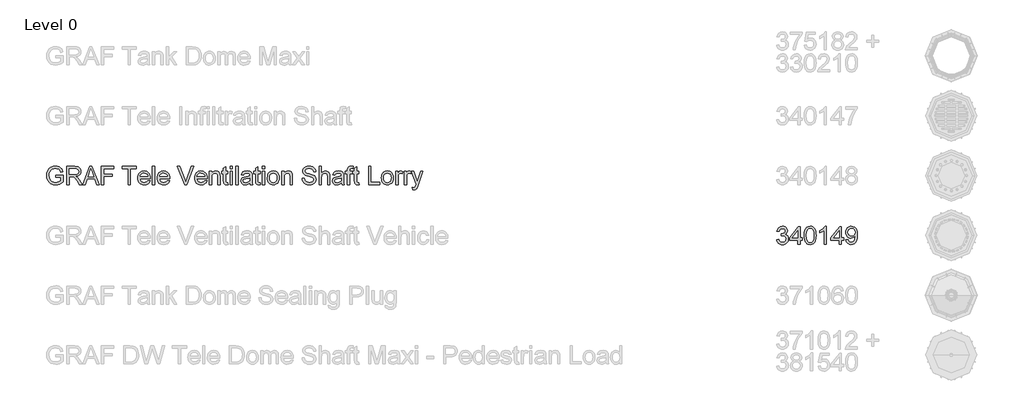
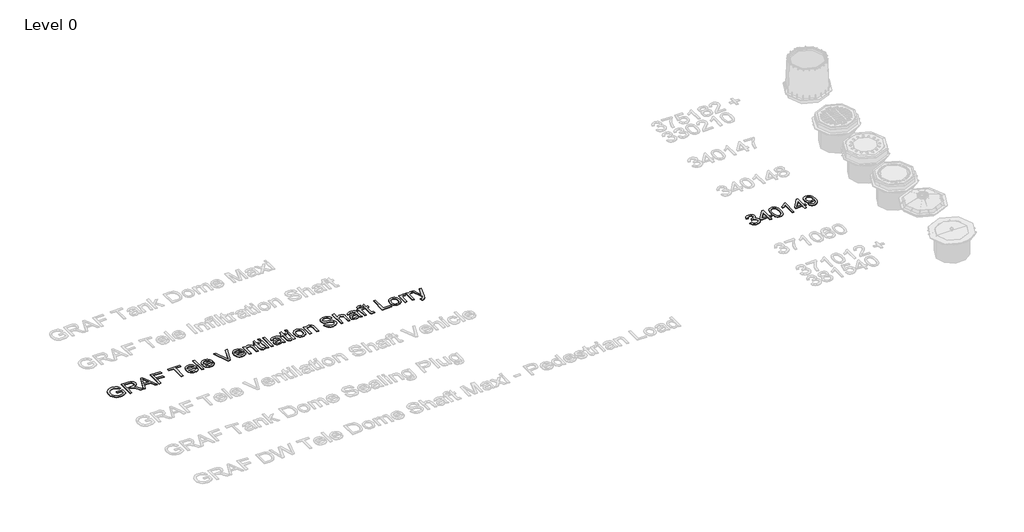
# One storey, part 6 of 25: 2 proxies.
"""IFC4 building model written with IfcOpenShell, lengths in millimetres."""

from ifc_helpers import new_model, si_unit, origin, origin_with_axes, place, context, project, spatial, polyline, outline, extrude, element, save

model = new_model("IFC4")

# Units and contexts
model_context = context("Model", 3, world=origin())
ifc_project = project(units=[si_unit("LENGTHUNIT", "METRE", prefix="MILLI")], contexts=[model_context])

# Site, building, storey
site = spatial("IfcSite", under=ifc_project)
building = spatial("IfcBuilding", under=site)
storey = spatial("IfcBuildingStorey", under=building, Name="Level 0", Elevation=0.0)

# Proxies
placement = place(None, origin())
element("IfcBuildingElementProxy", 1, Name="300mm Arial", ObjectType="300mm Arial", at=placement, inside=storey, context=model_context, shape_type="SweptSolid", body=[
    extrude(outline(polyline([(-15240.9940387, -7083.2545597), (-15240.9940387, -7045.5834434), (-15118.5629107, -7045.5834434), (-15118.5629107, -7158.2289103), (-15148.3153671, -7178.9222726), (-15179.0059225, -7193.7663111), (-15210.5610007, -7202.7058436), (-15242.9070251, -7205.6856877), (-15285.1674693, -7200.949207), (-15323.3628175, -7186.739765), (-15355.0926395, -7163.5540022), (-15377.9565055, -7131.8885595), (-15391.7796715, -7093.9047435), (-15396.3873935, -7051.7638609), (-15391.7980656, -7009.3194757), (-15378.0300819, -6969.8365406), (-15355.6536596, -6936.717964), (-15325.2390156, -6913.3666543), (-15288.1932987, -6899.5158972), (-15245.9236575, -6894.8989782), (-15214.8928112, -6897.5753197), (-15186.9889618, -6905.6043443), (-15163.4904994, -6918.4066377), (-15145.6758138, -6935.4027859), (-15132.4964413, -6957.4113262), (-15122.9039183, -6985.2507962), (-15157.6319786, -6995.0364573), (-15165.3850917, -6975.1800266), (-15174.8120678, -6960.1980323), (-15187.2832674, -6948.9040551), (-15204.169051, -6940.1116754), (-15224.3013932, -6934.4554897), (-15246.5122687, -6932.5700945), (-15272.5123287, -6934.6026425), (-15294.7415982, -6940.7002866), (-15313.1173039, -6950.0996716), (-15327.5566722, -6962.0374423), (-15346.9440533, -6991.0633317), (-15355.7732212, -7019.50061), (-15358.7162772, -7050.2187566), (-15355.175413, -7086.2436009), (-15344.5528204, -7115.8856927), (-15327.1703961, -7138.9334997), (-15303.3500369, -7155.1754898), (-15275.4737787, -7164.804801), (-15245.9236575, -7168.0145714), (-15219.831627, -7165.5957473), (-15194.3833899, -7158.3392749), (-15172.2828791, -7148.3420817), (-15156.234027, -7137.701095), (-15156.234027, -7083.2545597), (-15240.9940387, -7083.2545597)])), origin_with_axes(), (0.0, 0.0, 1.0), 10.0),
    extrude(outline(polyline([(-15057.3473467, -7200.9767982), (-15057.3473467, -6899.6078677), (-14927.4850024, -6899.6078677), (-14892.5821982, -6901.6404158), (-14867.1891434, -6907.7380598), (-14848.6294968, -6918.9952489), (-14834.2269167, -6936.5064318), (-14824.9838815, -6958.2206666), (-14821.9028698, -6982.087011), (-14827.0072325, -7011.7750881), (-14842.3203206, -7036.3863935), (-14853.9200997, -7046.4157764), (-14868.3019865, -7054.4310054), (-14905.4120827, -7064.4190016), (-14884.0013506, -7080.532233), (-14853.467145, -7119.3069952), (-14803.2144645, -7200.9767982), (-14846.9924219, -7200.9767982), (-14886.2086426, -7138.5104354), (-14914.5355562, -7097.1604991), (-14934.4379722, -7077.6259652), (-14952.3538253, -7070.4522663), (-14974.2060158, -7069.1278911), (-15019.6762304, -7069.1278911), (-15019.6762304, -7200.9767982), (-15057.3473467, -7200.9767982)]), holes=[polyline([(-15019.6762304, -7031.4567748), (-14935.3576771, -7031.4567748), (-14911.1418448, -7030.1232026), (-14892.3522719, -7026.1224859), (-14878.2072092, -7019.1879103), (-14867.9249074, -7009.0527613), (-14861.6617165, -6996.7930938), (-14859.5739861, -6983.4849626), (-14863.5563087, -6965.109257), (-14875.5032765, -6950.3020067), (-14896.058683, -6940.5347397), (-14925.8663217, -6937.278984), (-15019.6762304, -6937.278984), (-15019.6762304, -7031.4567748)])]), origin_with_axes(), (0.0, 0.0, 1.0), 10.0),
    extrude(outline(polyline([(-14791.0743586, -7200.9767982), (-14670.7769462, -6899.6078677), (-14638.6976362, -6899.6078677), (-14518.4002238, -7200.9767982), (-14558.2050557, -7200.9767982), (-14592.7123868, -7106.7990074), (-14716.835772, -7106.7990074), (-14751.2695268, -7200.9767982), (-14791.0743586, -7200.9767982)]), holes=[polyline([(-14703.003409, -7069.1278911), (-14606.4711735, -7069.1278911), (-14633.6208647, -6995.0364573), (-14654.7372912, -6937.278984), (-14673.499273, -6988.5617342), (-14703.003409, -7069.1278911)])]), origin_with_axes(), (0.0, 0.0, 1.0), 10.0),
    extrude(outline(polyline([(-14478.1539335, -7200.9767982), (-14478.1539335, -6899.6078677), (-14275.6716834, -6899.6078677), (-14275.6716834, -6937.278984), (-14440.4828172, -6937.278984), (-14440.4828172, -7026.7478853), (-14299.2161311, -7026.7478853), (-14299.2161311, -7064.4190016), (-14440.4828172, -7064.4190016), (-14440.4828172, -7200.9767982), (-14478.1539335, -7200.9767982)])), origin_with_axes(), (0.0, 0.0, 1.0), 10.0),
    extrude(outline(polyline([(-14030.8094274, -7200.9767982), (-14030.8094274, -6937.278984), (-14129.6961077, -6937.278984), (-14129.6961077, -6899.6078677), (-13894.2516308, -6899.6078677), (-13894.2516308, -6937.278984), (-13993.1383111, -6937.278984), (-13993.1383111, -7200.9767982), (-14030.8094274, -7200.9767982)])), origin_with_axes(), (0.0, 0.0, 1.0), 10.0),
    extrude(outline(polyline([(-13701.6286181, -7135.0523446), (-13664.6932658, -7139.7612342), (-13678.001397, -7167.5915071), (-13699.2373851, -7188.3952339), (-13727.9229837, -7201.3630743), (-13763.5799461, -7205.6856877), (-13786.9542484, -7203.8209859), (-13807.7809678, -7198.2268803), (-13826.0601045, -7188.9033709), (-13841.7916583, -7175.8504579), (-13854.4422004, -7159.4314246), (-13863.4783019, -7140.0095545), (-13868.8999628, -7117.5848477), (-13870.7071831, -7092.157304), (-13868.8815687, -7065.8675369), (-13863.4047255, -7042.6955698), (-13854.2766535, -7022.6414025), (-13841.4973527, -7005.7050351), (-13825.8071856, -6992.2497512), (-13807.9465147, -6982.638834), (-13787.9153401, -6976.8722838), (-13765.7136617, -6974.9501003), (-13744.2270539, -6976.8676852), (-13724.7959868, -6982.6204399), (-13707.4204603, -6992.2083644), (-13692.1004744, -7005.6314587), (-13679.5947859, -7022.5310379), (-13670.6621512, -7042.548417), (-13665.3025704, -7065.6835959), (-13663.5160434, -7091.9365748), (-13663.7367726, -7102.0901179), (-13833.0360668, -7102.0901179), (-13826.5153584, -7130.2882728), (-13811.3678173, -7151.0184232), (-13789.5064297, -7163.7655344), (-13762.8441821, -7168.0145714), (-13742.7946134, -7166.0464027), (-13725.9088298, -7160.1418967), (-13712.1868314, -7149.9331713), (-13701.6286181, -7135.0523446)]), holes=[polyline([(-13833.0360668, -7064.4190016), (-13701.1871597, -7064.4190016), (-13706.2823254, -7044.5165856), (-13716.2703215, -7030.2795524), (-13738.2328766, -7017.0358006), (-13765.8608145, -7012.6212166), (-13791.2538692, -7016.1436868), (-13812.2507341, -7026.7110971), (-13826.8464522, -7043.1830134), (-13833.0360668, -7064.4190016)])]), origin_with_axes(), (0.0, 0.0, 1.0), 10.0),
    extrude(outline(polyline([(-13625.8449271, -7200.9767982), (-13625.8449271, -6899.6078677), (-13588.1738108, -6899.6078677), (-13588.1738108, -7200.9767982), (-13625.8449271, -7200.9767982)])), origin_with_axes(), (0.0, 0.0, 1.0), 10.0),
    extrude(outline(polyline([(-13376.71524, -7135.0523446), (-13339.7798877, -7139.7612342), (-13353.0880188, -7167.5915071), (-13374.324007, -7188.3952339), (-13403.0096056, -7201.3630743), (-13438.666568, -7205.6856877), (-13462.0408702, -7203.8209859), (-13482.8675897, -7198.2268803), (-13501.1467263, -7188.9033709), (-13516.8782801, -7175.8504579), (-13529.5288222, -7159.4314246), (-13538.5649238, -7140.0095545), (-13543.9865847, -7117.5848477), (-13545.793805, -7092.157304), (-13543.9681906, -7065.8675369), (-13538.4913474, -7042.6955698), (-13529.3632754, -7022.6414025), (-13516.5839745, -7005.7050351), (-13500.8938074, -6992.2497512), (-13483.0331366, -6982.638834), (-13463.0019619, -6976.8722838), (-13440.8002835, -6974.9501003), (-13419.3136758, -6976.8676852), (-13399.8826086, -6982.6204399), (-13382.5070821, -6992.2083644), (-13367.1870963, -7005.6314587), (-13354.6814077, -7022.5310379), (-13345.748773, -7042.548417), (-13340.3891922, -7065.6835959), (-13338.6026653, -7091.9365748), (-13338.8233945, -7102.0901179), (-13508.1226887, -7102.0901179), (-13501.6019803, -7130.2882728), (-13486.4544391, -7151.0184232), (-13464.5930516, -7163.7655344), (-13437.930804, -7168.0145714), (-13417.8812352, -7166.0464027), (-13400.9954517, -7160.1418967), (-13387.2734532, -7149.9331713), (-13376.71524, -7135.0523446)]), holes=[polyline([(-13508.1226887, -7064.4190016), (-13376.2737816, -7064.4190016), (-13381.3689472, -7044.5165856), (-13391.3569434, -7030.2795524), (-13413.3194985, -7017.0358006), (-13440.9474363, -7012.6212166), (-13466.3404911, -7016.1436868), (-13487.3373559, -7026.7110971), (-13501.9330741, -7043.1830134), (-13508.1226887, -7064.4190016)])]), origin_with_axes(), (0.0, 0.0, 1.0), 10.0),
    extrude(outline(polyline([(-13089.4729781, -7200.9767982), (-13209.4025086, -6899.6078677), (-13169.0826419, -6899.6078677), (-13088.8107906, -7116.7318213), (-13072.5504064, -7165.6601266), (-13056.5107514, -7116.7318213), (-12976.0181708, -6899.6078677), (-12935.6983042, -6899.6078677), (-13050.5510631, -7200.9767982), (-13089.4729781, -7200.9767982)])), origin_with_axes(), (0.0, 0.0, 1.0), 10.0),
    extrude(outline(polyline([(-12750.4329314, -7135.0523446), (-12713.4975791, -7139.7612342), (-12726.8057102, -7167.5915071), (-12748.0416984, -7188.3952339), (-12776.727297, -7201.3630743), (-12812.3842594, -7205.6856877), (-12835.7585616, -7203.8209859), (-12856.5852811, -7198.2268803), (-12874.8644177, -7188.9033709), (-12890.5959716, -7175.8504579), (-12903.2465137, -7159.4314246), (-12912.2826152, -7140.0095545), (-12917.7042761, -7117.5848477), (-12919.5114964, -7092.157304), (-12917.685882, -7065.8675369), (-12912.2090388, -7042.6955698), (-12903.0809668, -7022.6414025), (-12890.301666, -7005.7050351), (-12874.6114989, -6992.2497512), (-12856.750828, -6982.638834), (-12836.7196534, -6976.8722838), (-12814.5179749, -6974.9501003), (-12793.0313672, -6976.8676852), (-12773.6003, -6982.6204399), (-12756.2247736, -6992.2083644), (-12740.9047877, -7005.6314587), (-12728.3990991, -7022.5310379), (-12719.4664644, -7042.548417), (-12714.1068836, -7065.6835959), (-12712.3203567, -7091.9365748), (-12712.5410859, -7102.0901179), (-12881.8403801, -7102.0901179), (-12875.3196717, -7130.2882728), (-12860.1721306, -7151.0184232), (-12838.310743, -7163.7655344), (-12811.6484954, -7168.0145714), (-12791.5989266, -7166.0464027), (-12774.7131431, -7160.1418967), (-12760.9911447, -7149.9331713), (-12750.4329314, -7135.0523446)]), holes=[polyline([(-12881.8403801, -7064.4190016), (-12749.991473, -7064.4190016), (-12755.0866386, -7044.5165856), (-12765.0746348, -7030.2795524), (-12787.0371899, -7017.0358006), (-12814.6651277, -7012.6212166), (-12840.0581825, -7016.1436868), (-12861.0550473, -7026.7110971), (-12875.6507655, -7043.1830134), (-12881.8403801, -7064.4190016)])]), origin_with_axes(), (0.0, 0.0, 1.0), 10.0),
    extrude(outline(polyline([(-12674.6492404, -7200.9767982), (-12674.6492404, -6979.6589899), (-12636.9781241, -6979.6589899), (-12636.9781241, -7010.5610775), (-12623.8907221, -6994.981275), (-12608.1729639, -6983.8528446), (-12589.8248493, -6977.1757864), (-12568.8463786, -6974.9501003), (-12550.2775349, -6976.7435251), (-12533.2721896, -6982.1237992), (-12519.0903387, -6990.4195382), (-12508.991978, -7000.9593574), (-12497.6980007, -7028.6608716), (-12495.7114379, -7065.0811892), (-12495.7114379, -7200.9767982), (-12533.3825542, -7200.9767982), (-12533.3825542, -7070.1579607), (-12537.7235618, -7036.8278519), (-12543.7292353, -7026.9042351), (-12553.064241, -7019.2063044), (-12565.0296029, -7014.2674886), (-12578.9263452, -7012.6212166), (-12600.9900679, -7016.3184307), (-12619.7980349, -7027.4100729), (-12627.3143239, -7036.4645685), (-12632.6831018, -7048.8391991), (-12636.9781241, -7083.5488653), (-12636.9781241, -7200.9767982), (-12674.6492404, -7200.9767982)])), origin_with_axes(), (0.0, 0.0, 1.0), 10.0),
    extrude(outline(polyline([(-12363.8625309, -7169.5596758), (-12359.1536413, -7202.0804442), (-12387.3334021, -7205.6856877), (-12405.4148022, -7204.1221892), (-12418.8976773, -7199.4316938), (-12428.425821, -7192.2028126), (-12434.6430267, -7183.0241568), (-12438.0643293, -7167.2604133), (-12439.2047635, -7140.276269), (-12439.2047635, -7017.3301062), (-12467.4581007, -7017.3301062), (-12467.4581007, -6979.6589899), (-12439.2047635, -6979.6589899), (-12439.2047635, -6925.8746422), (-12401.5336472, -6903.7281461), (-12401.5336472, -6979.6589899), (-12363.8625309, -6979.6589899), (-12363.8625309, -7017.3301062), (-12401.5336472, -7017.3301062), (-12401.5336472, -7139.172623), (-12399.5470844, -7158.5967923), (-12393.1091495, -7165.4761856), (-12380.2700678, -7168.0145714), (-12363.8625309, -7169.5596758)])), origin_with_axes(), (0.0, 0.0, 1.0), 10.0),
    extrude(outline(polyline([(-12326.1914146, -7200.9767982), (-12326.1914146, -6979.6589899), (-12288.5202982, -6979.6589899), (-12288.5202982, -7200.9767982), (-12326.1914146, -7200.9767982)])), origin_with_axes(), (0.0, 0.0, 1.0), 10.0),
    extrude(outline(polyline([(-12326.1914146, -6937.278984), (-12326.1914146, -6899.6078677), (-12288.5202982, -6899.6078677), (-12288.5202982, -6937.278984), (-12326.1914146, -6937.278984)])), origin_with_axes(), (0.0, 0.0, 1.0), 10.0),
    extrude(outline(polyline([(-12232.0136238, -7200.9767982), (-12232.0136238, -6899.6078677), (-12194.3425075, -6899.6078677), (-12194.3425075, -7200.9767982), (-12232.0136238, -7200.9767982)])), origin_with_axes(), (0.0, 0.0, 1.0), 10.0),
    extrude(outline(polyline([(-11996.5691469, -7172.7234609), (-12014.5677735, -7188.1561106), (-12033.099829, -7198.2544714), (-12052.5883777, -7203.8278836), (-12073.4564839, -7205.6856877), (-12104.9379856, -7201.2159215), (-12128.1605365, -7187.8066228), (-12142.4803432, -7167.4443543), (-12147.2536121, -7142.1156789), (-12145.4509903, -7126.4990883), (-12140.043125, -7112.3172373), (-12131.7014008, -7100.1771315), (-12121.0972022, -7090.685776), (-12094.7200632, -7078.324941), (-12062.1257184, -7072.6595583), (-12023.6084735, -7066.6998699), (-11996.7898761, -7059.710112), (-11996.5691469, -7051.3224025), (-11999.1627149, -7034.5101954), (-12006.9434191, -7023.5105237), (-12024.3442375, -7015.3435434), (-12048.587661, -7012.6212166), (-12071.0284627, -7014.4330355), (-12086.7002357, -7019.868492), (-12097.3872077, -7029.9208675), (-12104.8736063, -7045.5834434), (-12142.5447226, -7040.8745539), (-12136.0056201, -7020.2731621), (-12126.2475502, -7004.0863544), (-12112.3600049, -6991.7071252), (-12093.4324762, -6982.5284694), (-12070.2835017, -6976.8446926), (-12043.7316187, -6974.9501003), (-12018.2649875, -6976.6239634), (-11998.0774631, -6981.6455527), (-11982.8563455, -6989.1963306), (-11972.2889352, -6998.4577598), (-11965.2807832, -7009.9080869), (-11960.7374405, -7024.0255585), (-11958.8980306, -7056.9877853), (-11958.8980306, -7103.8559515), (-11956.9850442, -7169.3021584), (-11949.4802515, -7200.9767982), (-11987.1513678, -7200.9767982), (-11996.5691469, -7172.7234609)]), holes=[polyline([(-11996.5691469, -7097.3812283), (-12057.3432525, -7108.932723), (-12089.7536563, -7115.0395641), (-12104.4321479, -7124.972378), (-12109.5824958, -7139.4669286), (-12106.7773956, -7150.6689353), (-12098.3620949, -7159.8475911), (-12084.5205349, -7165.9728263), (-12065.4366564, -7168.0145714), (-12045.2031466, -7165.7612942), (-12027.3240817, -7159.0014625), (-12012.8295311, -7149.0410575), (-12002.7495644, -7137.1860602), (-11998.2797982, -7124.972378), (-11996.7898761, -7108.0498062), (-11996.5691469, -7097.3812283)])]), origin_with_axes(), (0.0, 0.0, 1.0), 10.0),
    extrude(outline(polyline([(-11827.0491235, -7169.5596758), (-11822.340234, -7202.0804442), (-11850.5199948, -7205.6856877), (-11868.6013949, -7204.1221892), (-11882.08427, -7199.4316938), (-11891.6124136, -7192.2028126), (-11897.8296194, -7183.0241568), (-11901.2509219, -7167.2604133), (-11902.3913561, -7140.276269), (-11902.3913561, -7017.3301062), (-11930.6446933, -7017.3301062), (-11930.6446933, -6979.6589899), (-11902.3913561, -6979.6589899), (-11902.3913561, -6925.8746422), (-11864.7202398, -6903.7281461), (-11864.7202398, -6979.6589899), (-11827.0491235, -6979.6589899), (-11827.0491235, -7017.3301062), (-11864.7202398, -7017.3301062), (-11864.7202398, -7139.172623), (-11862.733677, -7158.5967923), (-11856.2957421, -7165.4761856), (-11843.4566605, -7168.0145714), (-11827.0491235, -7169.5596758)])), origin_with_axes(), (0.0, 0.0, 1.0), 10.0),
    extrude(outline(polyline([(-11789.3780072, -7200.9767982), (-11789.3780072, -6979.6589899), (-11751.7068909, -6979.6589899), (-11751.7068909, -7200.9767982), (-11789.3780072, -7200.9767982)])), origin_with_axes(), (0.0, 0.0, 1.0), 10.0),
    extrude(outline(polyline([(-11789.3780072, -6937.278984), (-11789.3780072, -6899.6078677), (-11751.7068909, -6899.6078677), (-11751.7068909, -6937.278984), (-11789.3780072, -6937.278984)])), origin_with_axes(), (0.0, 0.0, 1.0), 10.0),
    extrude(outline(polyline([(-11704.6179955, -7090.317894), (-11702.580849, -7061.6552881), (-11696.4694093, -7036.9566106), (-11686.2836766, -7016.2218617), (-11672.0236507, -6999.4510412), (-11657.6670559, -6988.7318796), (-11641.8205389, -6981.0753356), (-11624.4840999, -6976.4814091), (-11605.6577388, -6974.9501003), (-11584.8747053, -6976.8148022), (-11566.0828332, -6982.4089078), (-11549.2821223, -6991.7324171), (-11534.4725727, -7004.7853302), (-11522.3853499, -7021.1261885), (-11513.7516194, -7040.3135338), (-11508.571381, -7062.3473661), (-11506.8446349, -7087.2276853), (-11509.8980555, -7125.2850777), (-11519.0583171, -7154.2557848), (-11534.0587055, -7175.9516255), (-11554.6325061, -7192.1844185), (-11579.0690676, -7202.3103704), (-11605.6577388, -7205.6856877), (-11626.7442749, -7203.8278836), (-11645.710891, -7198.2544714), (-11662.5575871, -7188.965451), (-11677.2843633, -7175.9608225), (-11689.2428274, -7159.461315), (-11697.7845874, -7139.6876578), (-11702.9096435, -7116.6398508), (-11704.6179955, -7090.317894)]), holes=[polyline([(-11666.9468792, -7090.2443176), (-11662.5874776, -7124.3377815), (-11649.5092726, -7148.6271903), (-11629.8275859, -7163.1677261), (-11605.6577388, -7168.0145714), (-11581.5982563, -7163.140135), (-11561.9533578, -7148.5168257), (-11548.8751528, -7123.9055202), (-11544.5157512, -7089.0670952), (-11548.902744, -7055.9669127), (-11562.0637224, -7032.0085978), (-11581.7362121, -7017.4680619), (-11605.6577388, -7012.6212166), (-11629.8275859, -7017.4496678), (-11649.5092726, -7031.9350214), (-11662.5874776, -7056.1692478), (-11666.9468792, -7090.2443176)])]), origin_with_axes(), (0.0, 0.0, 1.0), 10.0),
    extrude(outline(polyline([(-11464.464629, -7200.9767982), (-11464.464629, -6979.6589899), (-11426.7935127, -6979.6589899), (-11426.7935127, -7010.5610775), (-11413.7061108, -6994.981275), (-11397.9883525, -6983.8528446), (-11379.640238, -6977.1757864), (-11358.6617672, -6974.9501003), (-11340.0929235, -6976.7435251), (-11323.0875783, -6982.1237992), (-11308.9057274, -6990.4195382), (-11298.8073666, -7000.9593574), (-11287.5133894, -7028.6608716), (-11285.5268266, -7065.0811892), (-11285.5268266, -7200.9767982), (-11323.1979429, -7200.9767982), (-11323.1979429, -7070.1579607), (-11327.5389504, -7036.8278519), (-11333.544624, -7026.9042351), (-11342.8796296, -7019.2063044), (-11354.8449915, -7014.2674886), (-11368.7417339, -7012.6212166), (-11390.8054566, -7016.3184307), (-11409.6134236, -7027.4100729), (-11417.1297126, -7036.4645685), (-11422.4984904, -7048.8391991), (-11426.7935127, -7083.5488653), (-11426.7935127, -7200.9767982), (-11464.464629, -7200.9767982)])), origin_with_axes(), (0.0, 0.0, 1.0), 10.0),
    extrude(outline(polyline([(-11125.4245823, -7097.3812283), (-11087.753466, -7097.3812283), (-11083.4308525, -7118.2861227), (-11075.6133601, -7135.0891328), (-11063.418072, -7148.4248552), (-11045.9620713, -7158.9278861), (-11024.6249156, -7165.7429001), (-11000.7861623, -7168.0145714), (-10979.7984945, -7166.2947231), (-10961.4227888, -7161.1351781), (-10946.5327651, -7152.9681978), (-10936.002143, -7142.2260435), (-10929.738952, -7129.8927997), (-10927.6512217, -7116.9525505), (-10929.2147202, -7104.3433951), (-10933.9052156, -7093.444891), (-10943.4333593, -7084.1466736), (-10959.5098025, -7076.3383782), (-11014.361008, -7061.9541922), (-11050.3674582, -7052.4352456), (-11073.4060682, -7043.3761514), (-11092.1588529, -7030.7026167), (-11105.44859, -7015.3435434), (-11113.3672499, -6997.6300253), (-11116.0068032, -6977.8931563), (-11112.7418505, -6955.8294336), (-11102.9469924, -6935.2556331), (-11086.8797462, -6917.8180265), (-11064.7976295, -6905.1628859), (-11038.2917317, -6897.4649551), (-11008.9531426, -6894.8989782), (-10977.1681382, -6897.5845168), (-10949.3562594, -6905.6411325), (-10926.5107875, -6918.9032784), (-10909.6250039, -6937.2054076), (-10898.938032, -6959.407086), (-10894.6889949, -6984.3678794), (-10932.3601112, -6984.3678794), (-10939.2762927, -6961.8902895), (-10953.6972669, -6945.6666935), (-10976.2300392, -6935.8442443), (-11007.4816146, -6932.5700945), (-11039.4689541, -6935.8074561), (-11061.4131151, -6945.5195407), (-11074.105044, -6959.8117562), (-11078.3356869, -6976.7895103), (-11075.3374487, -6991.2656668), (-11066.3427339, -7002.909132), (-11045.0791545, -7013.3201924), (-11004.8328643, -7023.9519821), (-10963.298987, -7034.0503429), (-10938.1726467, -7042.8611167), (-10916.6975353, -7056.5279328), (-10901.715541, -7073.3953223), (-10892.9139643, -7093.2793441), (-10889.9801054, -7115.9960573), (-10893.3554227, -7139.2186082), (-10903.4813746, -7161.0616017), (-10919.9440939, -7179.8603717), (-10942.3297133, -7193.9502521), (-10969.2494783, -7202.7518288), (-10999.3146343, -7205.6856877), (-11036.2223955, -7202.5219026), (-11066.6002513, -7193.0305471), (-11090.7976895, -7177.1748331), (-11109.1641981, -7154.9179724), (-11120.9548161, -7127.8050693), (-11125.4245823, -7097.3812283)])), origin_with_axes(), (0.0, 0.0, 1.0), 10.0),
    extrude(outline(polyline([(-10838.1823205, -7200.9767982), (-10838.1823205, -6899.6078677), (-10800.5112042, -6899.6078677), (-10800.5112042, -7010.4139247), (-10786.6742426, -6994.8985015), (-10771.1358268, -6983.8160564), (-10753.8959568, -6977.1665894), (-10734.9546326, -6974.9501003), (-10712.2011312, -6977.3689245), (-10692.6482032, -6984.6253968), (-10677.2523417, -6996.1493003), (-10666.9700399, -7011.3704179), (-10661.1758985, -7032.2845093), (-10659.244518, -7060.8873344), (-10659.244518, -7200.9767982), (-10696.9156343, -7200.9767982), (-10696.9156343, -7064.7868836), (-10699.9138726, -7041.2056477), (-10708.9085874, -7025.0556281), (-10723.403138, -7015.7298195), (-10742.9008837, -7012.6212166), (-10758.8209771, -7014.718144), (-10773.7661831, -7021.0089261), (-10786.1454122, -7030.8865577), (-10794.3675748, -7043.7440334), (-10798.9752968, -7060.8321521), (-10800.5112042, -7083.4017125), (-10800.5112042, -7200.9767982), (-10838.1823205, -7200.9767982)])), origin_with_axes(), (0.0, 0.0, 1.0), 10.0),
    extrude(outline(polyline([(-10466.1800469, -7172.7234609), (-10484.1786736, -7188.1561106), (-10502.7107291, -7198.2544714), (-10522.1992778, -7203.8278836), (-10543.0673839, -7205.6856877), (-10574.5488857, -7201.2159215), (-10597.7714366, -7187.8066228), (-10612.0912433, -7167.4443543), (-10616.8645122, -7142.1156789), (-10615.0618904, -7126.4990883), (-10609.6540251, -7112.3172373), (-10601.3123008, -7100.1771315), (-10590.7081023, -7090.685776), (-10564.3309633, -7078.324941), (-10531.7366185, -7072.6595583), (-10493.2193736, -7066.6998699), (-10466.4007761, -7059.710112), (-10466.1800469, -7051.3224025), (-10468.773615, -7034.5101954), (-10476.5543192, -7023.5105237), (-10493.9551376, -7015.3435434), (-10518.1985611, -7012.6212166), (-10540.6393628, -7014.4330355), (-10556.3111358, -7019.868492), (-10566.9981077, -7029.9208675), (-10574.4845063, -7045.5834434), (-10612.1556226, -7040.8745539), (-10605.6165202, -7020.2731621), (-10595.8584502, -7004.0863544), (-10581.9709049, -6991.7071252), (-10563.0433763, -6982.5284694), (-10539.8944017, -6976.8446926), (-10513.3425187, -6974.9501003), (-10487.8758876, -6976.6239634), (-10467.6883631, -6981.6455527), (-10452.4672456, -6989.1963306), (-10441.8998353, -6998.4577598), (-10434.8916832, -7009.9080869), (-10430.3483406, -7024.0255585), (-10428.5089306, -7056.9877853), (-10428.5089306, -7103.8559515), (-10426.5959443, -7169.3021584), (-10419.0911516, -7200.9767982), (-10456.7622679, -7200.9767982), (-10466.1800469, -7172.7234609)]), holes=[polyline([(-10466.1800469, -7097.3812283), (-10526.9541525, -7108.932723), (-10559.3645563, -7115.0395641), (-10574.0430479, -7124.972378), (-10579.1933959, -7139.4669286), (-10576.3882956, -7150.6689353), (-10567.972995, -7159.8475911), (-10554.1314349, -7165.9728263), (-10535.0475564, -7168.0145714), (-10514.8140467, -7165.7612942), (-10496.9349817, -7159.0014625), (-10482.4404311, -7149.0410575), (-10472.3604645, -7137.1860602), (-10467.8906982, -7124.972378), (-10466.4007761, -7108.0498062), (-10466.1800469, -7097.3812283)])]), origin_with_axes(), (0.0, 0.0, 1.0), 10.0),
    extrude(outline(polyline([(-10367.2933666, -7200.9767982), (-10367.2933666, -7017.3301062), (-10400.2555934, -7017.3301062), (-10400.2555934, -6979.6589899), (-10367.2933666, -6979.6589899), (-10367.2933666, -6957.365341), (-10363.3202411, -6925.9482186), (-10355.741872, -6913.4218366), (-10344.0432245, -6903.5074169), (-10327.6724758, -6897.0510879), (-10306.0778026, -6894.8989782), (-10271.7176243, -6899.0192565), (-10277.2358542, -6934.3359281), (-10298.9408919, -6932.5700945), (-10313.2606986, -6934.133593), (-10322.6692806, -6938.8240884), (-10327.8840079, -6947.782015), (-10329.6222503, -6962.1478069), (-10329.6222503, -6979.6589899), (-10287.2422445, -6979.6589899), (-10287.2422445, -7017.3301062), (-10329.6222503, -7017.3301062), (-10329.6222503, -7200.9767982), (-10367.2933666, -7200.9767982)])), origin_with_axes(), (0.0, 0.0, 1.0), 10.0),
    extrude(outline(polyline([(-10174.2288956, -7169.5596758), (-10169.520006, -7202.0804442), (-10197.6997669, -7205.6856877), (-10215.7811669, -7204.1221892), (-10229.264042, -7199.4316938), (-10238.7921857, -7192.2028126), (-10245.0093914, -7183.0241568), (-10248.430694, -7167.2604133), (-10249.5711282, -7140.276269), (-10249.5711282, -7017.3301062), (-10277.8244654, -7017.3301062), (-10277.8244654, -6979.6589899), (-10249.5711282, -6979.6589899), (-10249.5711282, -6925.8746422), (-10211.9000119, -6903.7281461), (-10211.9000119, -6979.6589899), (-10174.2288956, -6979.6589899), (-10174.2288956, -7017.3301062), (-10211.9000119, -7017.3301062), (-10211.9000119, -7139.172623), (-10209.9134491, -7158.5967923), (-10203.4755142, -7165.4761856), (-10190.6364325, -7168.0145714), (-10174.2288956, -7169.5596758)])), origin_with_axes(), (0.0, 0.0, 1.0), 10.0),
    extrude(outline(polyline([(-10014.1266513, -7200.9767982), (-10014.1266513, -6899.6078677), (-9976.455535, -6899.6078677), (-9976.455535, -7163.3056819), (-9825.7710697, -7163.3056819), (-9825.7710697, -7200.9767982), (-10014.1266513, -7200.9767982)])), origin_with_axes(), (0.0, 0.0, 1.0), 10.0),
    extrude(outline(polyline([(-9797.5177325, -7090.317894), (-9795.480586, -7061.6552881), (-9789.3691463, -7036.9566106), (-9779.1834136, -7016.2218617), (-9764.9233877, -6999.4510412), (-9750.5667929, -6988.7318796), (-9734.7202759, -6981.0753356), (-9717.3838369, -6976.4814091), (-9698.5574758, -6974.9501003), (-9677.7744423, -6976.8148022), (-9658.9825702, -6982.4089078), (-9642.1818593, -6991.7324171), (-9627.3723097, -7004.7853302), (-9615.2850869, -7021.1261885), (-9606.6513564, -7040.3135338), (-9601.471118, -7062.3473661), (-9599.7443719, -7087.2276853), (-9602.7977925, -7125.2850777), (-9611.9580541, -7154.2557848), (-9626.9584425, -7175.9516255), (-9647.5322431, -7192.1844185), (-9671.9688046, -7202.3103704), (-9698.5574758, -7205.6856877), (-9719.6440119, -7203.8278836), (-9738.610628, -7198.2544714), (-9755.4573241, -7188.965451), (-9770.1841003, -7175.9608225), (-9782.1425644, -7159.461315), (-9790.6843244, -7139.6876578), (-9795.8093805, -7116.6398508), (-9797.5177325, -7090.317894)]), holes=[polyline([(-9759.8466162, -7090.2443176), (-9755.4872146, -7124.3377815), (-9742.4090096, -7148.6271903), (-9722.7273229, -7163.1677261), (-9698.5574758, -7168.0145714), (-9674.4979933, -7163.140135), (-9654.8530948, -7148.5168257), (-9641.7748898, -7123.9055202), (-9637.4154882, -7089.0670952), (-9641.802481, -7055.9669127), (-9654.9634594, -7032.0085978), (-9674.6359491, -7017.4680619), (-9698.5574758, -7012.6212166), (-9722.7273229, -7017.4496678), (-9742.4090096, -7031.9350214), (-9755.4872146, -7056.1692478), (-9759.8466162, -7090.2443176)])]), origin_with_axes(), (0.0, 0.0, 1.0), 10.0),
    extrude(outline(polyline([(-9557.3643661, -7200.9767982), (-9557.3643661, -6979.6589899), (-9524.4021393, -6979.6589899), (-9524.4021393, -7012.4004875), (-9512.2252452, -6993.4177765), (-9501.0048444, -6982.2341638), (-9489.7476553, -6976.7711162), (-9477.4603967, -6974.9501003), (-9458.6984149, -6977.8563681), (-9439.6421276, -6986.5751714), (-9452.2236918, -7020.3467385), (-9465.4674437, -7014.5525971), (-9478.7111955, -7012.6212166), (-9489.9591875, -7014.4790207), (-9500.011563, -7020.052433), (-9508.132558, -7028.918389), (-9513.5864086, -7040.6538247), (-9518.1665395, -7061.6966748), (-9519.6932497, -7084.6525113), (-9519.6932497, -7200.9767982), (-9557.3643661, -7200.9767982)])), origin_with_axes(), (0.0, 0.0, 1.0), 10.0),
    extrude(outline(polyline([(-9416.0976799, -7200.9767982), (-9416.0976799, -6979.6589899), (-9383.1354531, -6979.6589899), (-9383.1354531, -7012.4004875), (-9370.9585591, -6993.4177765), (-9359.7381582, -6982.2341638), (-9348.4809692, -6976.7711162), (-9336.1937106, -6974.9501003), (-9317.4317288, -6977.8563681), (-9298.3754414, -6986.5751714), (-9310.9570057, -7020.3467385), (-9324.2007575, -7014.5525971), (-9337.4445093, -7012.6212166), (-9348.6925013, -7014.4790207), (-9358.7448769, -7020.052433), (-9366.8658719, -7028.918389), (-9372.3197225, -7040.6538247), (-9376.8998533, -7061.6966748), (-9378.4265636, -7084.6525113), (-9378.4265636, -7200.9767982), (-9416.0976799, -7200.9767982)])), origin_with_axes(), (0.0, 0.0, 1.0), 10.0),
    extrude(outline(polyline([(-9274.8309938, -7285.7368099), (-9279.5398833, -7249.4636451), (-9260.4100195, -7252.7745831), (-9242.5309546, -7248.6175166), (-9231.5680711, -7237.0292337), (-9221.2673753, -7209.2909313), (-9218.3243193, -7200.1674578), (-9298.3754414, -6979.6589899), (-9258.644186, -6979.6589899), (-9216.1906037, -7102.5315763), (-9201.4017475, -7151.6806108), (-9186.6128913, -7108.2705354), (-9142.9820867, -6979.6589899), (-9103.5451368, -6979.6589899), (-9180.5796266, -7206.2742989), (-9200.5924071, -7255.4233335), (-9210.8379207, -7271.1135006), (-9222.4445976, -7281.9844135), (-9235.9274728, -7288.3303779), (-9251.8015809, -7290.4456994), (-9274.8309938, -7285.7368099)])), origin_with_axes(), (0.0, 0.0, 1.0), 10.0),
])
element("IfcBuildingElementProxy", 2, Name="300mm Arial", ObjectType="300mm Arial", at=placement, inside=storey, context=model_context, shape_type="SweptSolid", body=[
    extrude(outline(polyline([(-3192.0538732, -8120.925676), (-3154.3827568, -8116.2167865), (-3145.9490621, -8139.8899929), (-3133.5974241, -8155.8744656), (-3116.7208376, -8164.979545), (-3094.7122972, -8168.0145714), (-3068.8869812, -8163.8391108), (-3048.947777, -8151.3127288), (-3036.2006659, -8132.6243235), (-3031.9516289, -8109.9627926), (-3036.1638777, -8088.4508929), (-3048.8006242, -8071.0040893), (-3067.930488, -8059.4433976), (-3091.6220885, -8055.5898337), (-3118.0360157, -8059.710112), (-3113.842161, -8022.0389957), (-3107.8088963, -8022.4804541), (-3085.2393359, -8019.7765215), (-3065.0610084, -8011.6647235), (-3050.8239752, -7997.942725), (-3046.0782975, -7978.4081911), (-3049.5179941, -7962.1386099), (-3059.8370841, -7948.9408433), (-3075.5824335, -7940.1944488), (-3095.3009084, -7937.278984), (-3115.0561716, -7940.22204), (-3131.2061912, -7949.0512079), (-3142.9968091, -7963.7664877), (-3149.6738673, -7984.3678794), (-3187.3449836, -7979.6589899), (-3176.2533415, -7945.8322404), (-3156.5164724, -7920.5771415), (-3129.513934, -7904.8501862), (-3096.6252836, -7899.6078677), (-3072.9428802, -7902.1922387), (-3051.1918572, -7909.9453518), (-3032.8529397, -7922.1774281), (-3019.4068528, -7938.198689), (-3011.1570991, -7956.6571681), (-3008.4071812, -7976.2008991), (-3011.0191433, -7994.4110579), (-3018.8550298, -8010.9289595), (-3031.8044761, -8025.0004458), (-3049.7571174, -8035.8713587), (-3026.1758815, -8045.3995024), (-3008.7014868, -8061.6230984), (-2997.8857561, -8083.6592299), (-2994.2805125, -8110.6249802), (-2996.0831343, -8129.7364498), (-3001.4909997, -8147.3396033), (-3010.5041085, -8163.4344406), (-3023.122461, -8178.0209617), (-3038.4953298, -8190.1242793), (-3055.771988, -8198.7695062), (-3074.9524356, -8203.9566423), (-3096.0366724, -8205.6856877), (-3115.0929598, -8204.2095612), (-3132.4569899, -8199.7811817), (-3148.1287629, -8192.4005492), (-3162.1082787, -8182.0676636), (-3173.8299188, -8169.3895304), (-3182.7280646, -8154.9731547), (-3188.802716, -8138.8185366), (-3192.0538732, -8120.925676)])), origin_with_axes(), (0.0, 0.0, 1.0), 10.0),
    extrude(outline(polyline([(-2838.8871578, -8200.9767982), (-2838.8871578, -8130.3434551), (-2975.4449544, -8130.3434551), (-2975.4449544, -8092.6723388), (-2829.4693787, -7904.3167573), (-2801.2160415, -7904.3167573), (-2801.2160415, -8092.6723388), (-2763.5449252, -8092.6723388), (-2763.5449252, -8130.3434551), (-2801.2160415, -8130.3434551), (-2801.2160415, -8200.9767982), (-2838.8871578, -8200.9767982)]), holes=[polyline([(-2838.8871578, -8092.6723388), (-2838.8871578, -7976.2744755), (-2929.091823, -8092.6723388), (-2838.8871578, -8092.6723388)])]), origin_with_axes(), (0.0, 0.0, 1.0), 10.0),
    extrude(outline(polyline([(-2730.5826984, -8052.7203541), (-2727.8143864, -8004.4818275), (-2719.5094504, -7966.0105679), (-2705.7506637, -7936.717964), (-2686.6208, -7916.0154047), (-2661.9819034, -7903.709752), (-2631.6960181, -7899.6078677), (-2608.4826642, -7902.0358889), (-2587.6973315, -7909.3199524), (-2570.3149072, -7921.1749497), (-2557.3102787, -7937.3157722), (-2547.4878294, -7957.6044643), (-2539.6519429, -7981.9030701), (-2534.5199891, -8012.7591724), (-2532.8093378, -8052.7203541), (-2535.5500587, -8100.6829692), (-2543.7722213, -8139.0622584), (-2557.4482344, -8168.3824534), (-2576.550507, -8189.1677861), (-2601.244586, -8201.5562123), (-2631.6960181, -8205.6856877), (-2652.4445626, -8203.892263), (-2670.8386624, -8198.5119888), (-2686.8783174, -8189.5448652), (-2700.5635276, -8176.9908921), (-2713.6969148, -8154.2971715), (-2723.0779057, -8126.0208417), (-2728.7065002, -8092.1619025), (-2730.5826984, -8052.7203541)]), holes=[polyline([(-2692.9115821, -8052.6467777), (-2688.4969982, -8111.9033701), (-2682.9787682, -8132.1713688), (-2675.2532463, -8146.1991691), (-2655.5347714, -8162.5607208), (-2631.6960181, -8168.0145714), (-2607.8572648, -8162.5423267), (-2588.1387899, -8146.1255927), (-2580.413268, -8132.0747997), (-2574.895038, -8111.8113996), (-2570.4804541, -8052.6467777), (-2574.7478852, -7994.7237576), (-2580.0821742, -7974.5224375), (-2587.5501787, -7960.1612441), (-2607.2318654, -7942.9995491), (-2632.1374765, -7937.278984), (-2655.7187124, -7942.3189674), (-2674.6646351, -7957.4389174), (-2682.6476744, -7973.0739022), (-2688.3498454, -7994.1535405), (-2692.9115821, -8052.6467777)])]), origin_with_axes(), (0.0, 0.0, 1.0), 10.0),
    extrude(outline(polyline([(-2358.5804249, -8200.9767982), (-2396.2515412, -8200.9767982), (-2396.2515412, -7966.1209325), (-2431.9360947, -7991.5415783), (-2471.5937738, -8010.5610775), (-2471.5937738, -7974.9501003), (-2442.0068643, -7958.8552631), (-2416.3746863, -7939.7070052), (-2396.1687677, -7919.3447368), (-2382.8606366, -7899.6078677), (-2358.5804249, -7899.6078677), (-2358.5804249, -8200.9767982)])), origin_with_axes(), (0.0, 0.0, 1.0), 10.0),
    extrude(outline(polyline([(-2146.6803957, -8200.9767982), (-2146.6803957, -8130.3434551), (-2283.2381923, -8130.3434551), (-2283.2381923, -8092.6723388), (-2137.2626166, -7904.3167573), (-2109.0092794, -7904.3167573), (-2109.0092794, -8092.6723388), (-2071.338163, -8092.6723388), (-2071.338163, -8130.3434551), (-2109.0092794, -8130.3434551), (-2109.0092794, -8200.9767982), (-2146.6803957, -8200.9767982)]), holes=[polyline([(-2146.6803957, -8092.6723388), (-2146.6803957, -7976.2744755), (-2236.8850609, -8092.6723388), (-2146.6803957, -8092.6723388)])]), origin_with_axes(), (0.0, 0.0, 1.0), 10.0),
    extrude(outline(polyline([(-2033.6670467, -8125.6345656), (-1995.9959304, -8120.925676), (-1989.5579955, -8142.308817), (-1979.0733587, -8156.867747), (-1964.7995372, -8165.2278653), (-1946.9940487, -8168.0145714), (-1931.018773, -8166.2211467), (-1916.4966313, -8160.8408725), (-1904.4301018, -8152.4623601), (-1895.8216632, -8141.6742206), (-1883.4976163, -8108.932723), (-1878.0529628, -8065.228342), (-1878.273692, -8057.8707021), (-1891.3243058, -8073.7999924), (-1908.4032274, -8086.4183449), (-1928.2780522, -8094.6405075), (-1949.7163754, -8097.3812283), (-1967.6115352, -8095.7073653), (-1984.0673567, -8090.685776), (-1999.0838399, -8082.3164606), (-2012.6609848, -8070.5994191), (-2023.9112761, -8056.1462552), (-2031.9471984, -8039.5685728), (-2036.7687518, -8020.8663719), (-2038.3759363, -8000.0396524), (-2036.6905769, -7978.5185557), (-2031.6344987, -7959.2047509), (-2023.2077018, -7942.0982382), (-2011.410186, -7927.1990174), (-1997.0742845, -7915.1278894), (-1981.0323303, -7906.5056551), (-1963.2843233, -7901.3323146), (-1943.8302635, -7899.6078677), (-1915.7332761, -7903.5442051), (-1890.1562804, -7915.3532171), (-1868.7639424, -7934.4462927), (-1853.2209281, -7960.2348205), (-1843.7571638, -7995.8825859), (-1840.6025757, -8044.5533738), (-1843.7479667, -8096.1580207), (-1853.1841399, -8136.045626), (-1868.8283218, -8166.0188116), (-1890.5977388, -8187.8801991), (-1917.554292, -8201.2343156), (-1948.7598823, -8205.6856877), (-1980.9679509, -8200.4341722), (-2006.6645083, -8184.6796258), (-2024.6355438, -8159.4153298), (-2033.6670467, -8125.6345656)]), holes=[polyline([(-1878.273692, -7999.1567356), (-1882.338788, -7973.6257252), (-1894.5340762, -7953.9808266), (-1913.4616048, -7941.4544447), (-1937.7234224, -7937.278984), (-1962.8865509, -7941.7763414), (-1983.0464842, -7955.2684136), (-1996.290236, -7975.9157906), (-2000.70482, -8001.8790624), (-1996.5293593, -8025.1567956), (-1984.0029774, -8043.6336688), (-1964.3396848, -8055.6910012), (-1938.753492, -8059.710112), (-1914.6848125, -8055.6910012), (-1895.3066284, -8043.6336688), (-1882.5319261, -8024.4762139), (-1878.273692, -7999.1567356)])]), origin_with_axes(), (0.0, 0.0, 1.0), 10.0),
])

save(model, "model.ifc")
